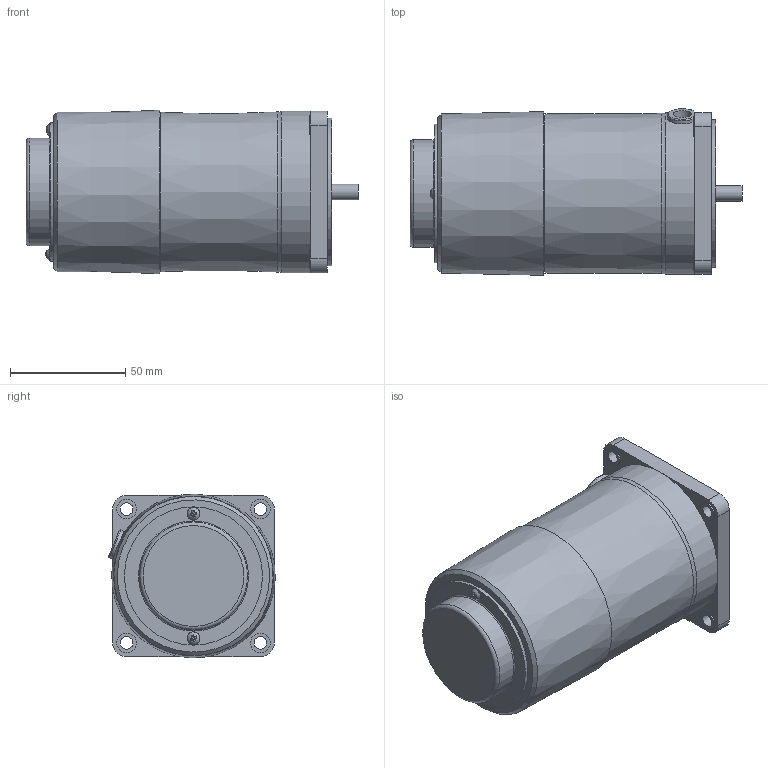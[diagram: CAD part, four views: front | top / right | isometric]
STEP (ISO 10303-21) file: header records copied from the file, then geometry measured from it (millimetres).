
FILE_DESCRIPTION((''),'2;1');
FILE_NAME('D:\김성묵\업무폴더\개발 파일\프로젝트 개발 AB등급\AC표준형 개발자료\90각 이하 표준형 개발\도면작성 자료\3D 도면\홈페이지용 3D 파일\15W MOTOR\ES TYPE\S7R15G-ES.stp','2015-03-30T19:52:44',('smkim'),(''),'Autodesk Inventor 2012','Autodesk Inventor 2012','');
FILE_SCHEMA(('AUTOMOTIVE_DESIGN { 1 0 10303 214 1 1 1 1 }'));
Length unit declared in the file: millimetre
Products named in the file (1): 부품100
Bounding box: 143.9 x 72.18 x 70.9 mm (x, y, z)
Volume: 476641 mm3; surface area: 42330.5 mm2
Topology: 1 solids, 7 shells, 156 faces, 363 edges, 236 vertices
Faces by surface type: plane 96, cylinder 46, torus 8, cone 4, bspline 2
Full cylindrical faces by diameter (mm): 3 x2, 3.5 x2, 5 x1, 5.5 x4, 5.6 x2, 6.5 x2, 6.7 x1, 8 x1, 8.5 x4, 10 x1, 28 x1, 44.7 x1, 46.7 x1, 47.7 x1, 59.9 x1, 64 x1, 68 x1, 70 x1
Entity records: 4456 total; most frequent: CARTESIAN_POINT 1024, DIRECTION 702, ORIENTED_EDGE 612, EDGE_CURVE 306, AXIS2_PLACEMENT_3D 275, EDGE_LOOP 228, VERTEX_POINT 220, FACE_OUTER_BOUND 156
